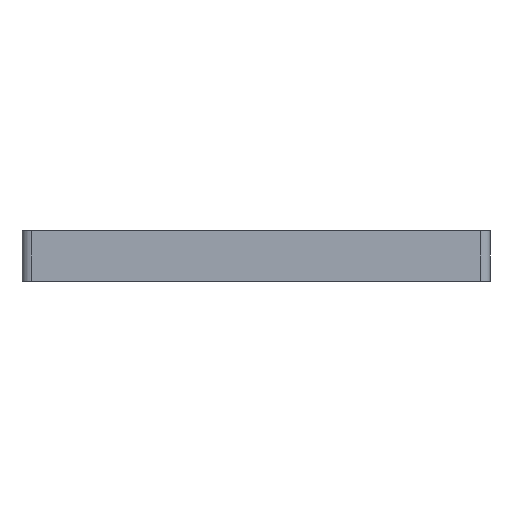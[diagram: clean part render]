
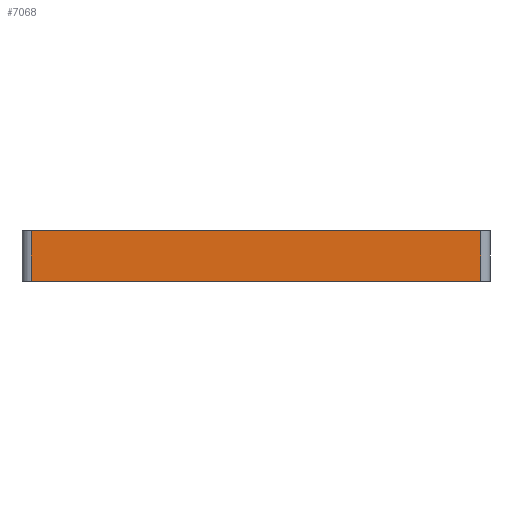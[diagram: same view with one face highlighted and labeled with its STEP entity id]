
A CAD part, front view. The second image highlights one B-rep face of the part: STEP entity #7068.
In plain terms, the highlighted planar face has unit normal (0, -1, 0).
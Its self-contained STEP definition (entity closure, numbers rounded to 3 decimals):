
#764=PLANE('',#7394);
#1139=FACE_OUTER_BOUND('',#1589,.T.);
#1589=EDGE_LOOP('',(#6627,#6628,#6629,#6630));
#1595=LINE('',#8615,#2165);
#1689=LINE('',#9939,#2259);
#2160=LINE('',#14031,#2730);
#2161=LINE('',#14033,#2731);
#2165=VECTOR('',#7420,10.);
#2259=VECTOR('',#7656,10.);
#2730=VECTOR('',#8585,10.);
#2731=VECTOR('',#8588,10.);
#2851=VERTEX_POINT('',#8612);
#2852=VERTEX_POINT('',#8614);
#3118=VERTEX_POINT('',#9936);
#3119=VERTEX_POINT('',#9938);
#3543=EDGE_CURVE('',#2851,#2852,#1595,.T.);
#3820=EDGE_CURVE('',#3118,#3119,#1689,.T.);
#4568=EDGE_CURVE('',#3118,#2852,#2160,.T.);
#4569=EDGE_CURVE('',#3119,#2851,#2161,.T.);
#6627=ORIENTED_EDGE('',*,*,#4568,.T.);
#6628=ORIENTED_EDGE('',*,*,#3543,.F.);
#6629=ORIENTED_EDGE('',*,*,#4569,.F.);
#6630=ORIENTED_EDGE('',*,*,#3820,.F.);
#7068=ADVANCED_FACE('',(#1139),#764,.T.);
#7394=AXIS2_PLACEMENT_3D('',#14032,#8586,#8587);
#7420=DIRECTION('',(1.,0.,0.));
#7656=DIRECTION('',(-1.,0.,0.));
#8585=DIRECTION('',(0.,0.,1.));
#8586=DIRECTION('center_axis',(0.,-1.,0.));
#8587=DIRECTION('ref_axis',(1.,0.,0.));
#8588=DIRECTION('',(0.,0.,1.));
#8612=CARTESIAN_POINT('',(-3.,-102.,2.));
#8614=CARTESIAN_POINT('',(94.,-102.,2.));
#8615=CARTESIAN_POINT('',(94.,-102.,2.));
#9936=CARTESIAN_POINT('',(94.,-102.,-9.));
#9938=CARTESIAN_POINT('',(-3.,-102.,-9.));
#9939=CARTESIAN_POINT('',(94.,-102.,-9.));
#14031=CARTESIAN_POINT('',(94.,-102.,0.));
#14032=CARTESIAN_POINT('Origin',(-3.,-102.,0.));
#14033=CARTESIAN_POINT('',(-3.,-102.,0.));
